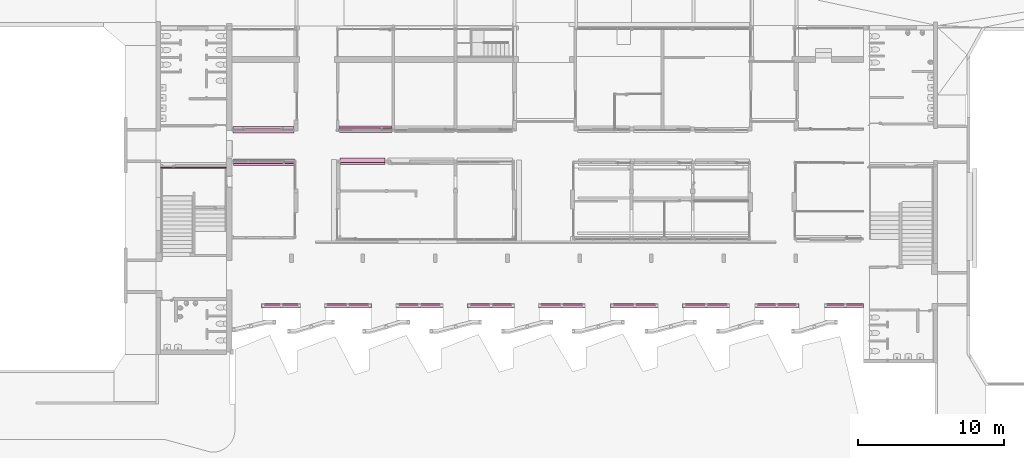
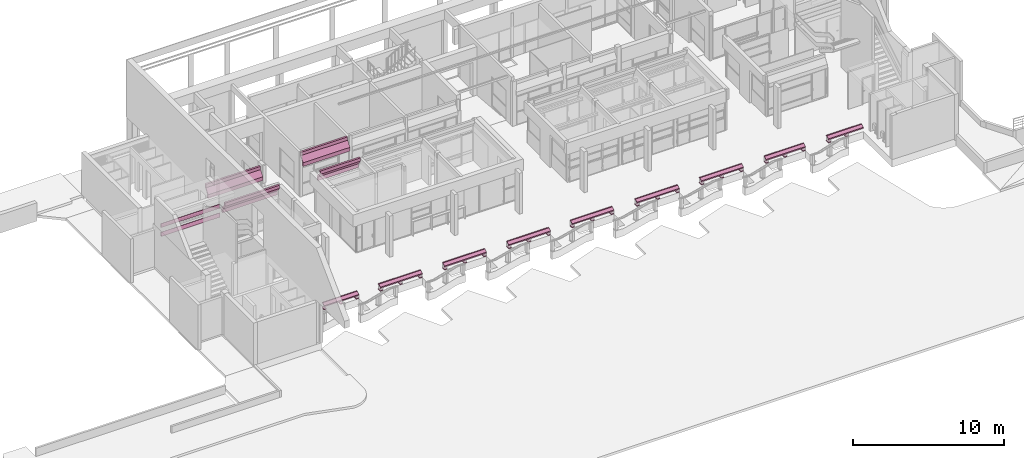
# One storey, part 113 of 117: 14 furniture elements.
"""IFC4 building model written with IfcOpenShell, lengths in metres."""

from ifc_helpers import new_model, entity, si_unit, converted_unit, derived_unit, direction, frame, origin, place, context, subcontext, project, spatial, indexed_curve, outline, extrude, source, transform, mapped, material, type_object, type_shapes, element, save


model = new_model("IFC4")

# Units and contexts
model_context = context("Model", 3, precision=1e-05, world=origin(), true_north=direction((6.123031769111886e-17, 1.0)))
body_context = subcontext(model_context, "Body", "Model", "MODEL_VIEW")
ifc_project = project(units=[si_unit("LENGTHUNIT", "METRE"), si_unit("AREAUNIT", "SQUARE_METRE"), si_unit("VOLUMEUNIT", "CUBIC_METRE"), converted_unit("PLANEANGLEUNIT", "DEGREE", entity("IfcRatioMeasure", 0.017453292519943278), si_unit("PLANEANGLEUNIT", "RADIAN"), dimensions=[0, 0, 0, 0, 0, 0, 0]), si_unit("MASSUNIT", "GRAM", prefix="KILO"), derived_unit("MASSDENSITYUNIT", [(si_unit("MASSUNIT", "GRAM", prefix="KILO"), 1), (si_unit("LENGTHUNIT", "METRE"), -3)]), derived_unit("MOMENTOFINERTIAUNIT", [(si_unit("LENGTHUNIT", "METRE"), 4)]), si_unit("TIMEUNIT", "SECOND"), si_unit("FREQUENCYUNIT", "HERTZ"), si_unit("THERMODYNAMICTEMPERATUREUNIT", "DEGREE_CELSIUS"), derived_unit("THERMALTRANSMITTANCEUNIT", [(si_unit("MASSUNIT", "GRAM", prefix="KILO"), 1), (si_unit("THERMODYNAMICTEMPERATUREUNIT", "KELVIN"), -1), (si_unit("TIMEUNIT", "SECOND"), -3)]), derived_unit("VOLUMETRICFLOWRATEUNIT", [(si_unit("LENGTHUNIT", "METRE"), 3), (si_unit("TIMEUNIT", "SECOND"), -1)]), derived_unit("MASSFLOWRATEUNIT", [(si_unit("MASSUNIT", "GRAM", prefix="KILO"), 1), (si_unit("TIMEUNIT", "SECOND"), -1)]), derived_unit("ROTATIONALFREQUENCYUNIT", [(si_unit("TIMEUNIT", "SECOND"), -1)]), si_unit("ELECTRICCURRENTUNIT", "AMPERE"), si_unit("ELECTRICVOLTAGEUNIT", "VOLT"), si_unit("POWERUNIT", "WATT"), si_unit("FORCEUNIT", "NEWTON", prefix="KILO"), si_unit("ILLUMINANCEUNIT", "LUX"), si_unit("LUMINOUSFLUXUNIT", "LUMEN"), si_unit("LUMINOUSINTENSITYUNIT", "CANDELA"), derived_unit("USERDEFINED", [(si_unit("MASSUNIT", "GRAM", prefix="KILO"), -1), (si_unit("LENGTHUNIT", "METRE"), -2), (si_unit("TIMEUNIT", "SECOND"), 3), (si_unit("LUMINOUSFLUXUNIT", "LUMEN"), 1)]), derived_unit("SOUNDPOWERUNIT", [(si_unit("MASSUNIT", "GRAM", prefix="KILO"), 1), (si_unit("LENGTHUNIT", "METRE"), 2), (si_unit("TIMEUNIT", "SECOND"), -3)]), derived_unit("SOUNDPRESSUREUNIT", [(si_unit("MASSUNIT", "GRAM", prefix="KILO"), 1), (si_unit("LENGTHUNIT", "METRE"), -1), (si_unit("TIMEUNIT", "SECOND"), -2)]), derived_unit("LINEARVELOCITYUNIT", [(si_unit("LENGTHUNIT", "METRE"), 1), (si_unit("TIMEUNIT", "SECOND"), -1)]), si_unit("PRESSUREUNIT", "PASCAL"), derived_unit("USERDEFINED", [(si_unit("LENGTHUNIT", "METRE"), -2), (si_unit("MASSUNIT", "GRAM", prefix="KILO"), 1), (si_unit("TIMEUNIT", "SECOND"), -2)]), derived_unit("LINEARFORCEUNIT", [(si_unit("MASSUNIT", "GRAM", prefix="KILO"), 1), (si_unit("LENGTHUNIT", "METRE"), 1), (si_unit("TIMEUNIT", "SECOND"), -2), (si_unit("LENGTHUNIT", "METRE"), -1)]), derived_unit("PLANARFORCEUNIT", [(si_unit("MASSUNIT", "GRAM", prefix="KILO"), 1), (si_unit("LENGTHUNIT", "METRE"), 1), (si_unit("TIMEUNIT", "SECOND"), -2), (si_unit("LENGTHUNIT", "METRE"), -2)])], contexts=[model_context])

# Site, building, storey
site_placement = place(None, origin())
site = spatial("IfcSite", under=ifc_project, at=site_placement, Name="Superficie", CompositionType="ELEMENT")
building_placement = place(site_placement, origin())
building = spatial("IfcBuilding", under=site, at=building_placement, CompositionType="ELEMENT")
storey_placement = place(building_placement, origin())
storey = spatial("IfcBuildingStorey", under=building, at=storey_placement, Name="Nivel 0", CompositionType="ELEMENT", Elevation=0.0)

# Furniture
ifc_material = material(Name="Madera - Listel", Category="Madera")
furniture_type_1 = type_object("IfcFurnitureType", Name="Mobiliario 8:Mobiliario 4", AssemblyPlace="NOTDEFINED", PredefinedType="NOTDEFINED", material=ifc_material)
shared_shape_1 = source(origin(), body_context, "Body", "SweptSolid", [
    extrude(outline(indexed_curve([(-0.49000000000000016, -0.22499999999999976), (-0.1900000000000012, -0.22499999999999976), (0.20999999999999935, 0.07500000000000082), (0.4699999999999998, 0.07500000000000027), (0.4699999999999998, 0.22500000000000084), (0.21000000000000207, 0.22500000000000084), (-0.1900000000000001, -0.07499999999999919), (-0.49000000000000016, -0.07499999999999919), (-0.49000000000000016, -0.22499999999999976)], self_intersect=False)), frame((-15.242403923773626, 3.5854370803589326, 2.9299999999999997), z_axis=(1.0, 0.0, 0.0), x_axis=(0.0, 0.0, 1.0)), (0.0, 0.0, 1.0), 3.0800000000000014),
])
type_shapes(furniture_type_1, [shared_shape_1])
furniture_1_placement = place(storey_placement, origin())
element("IfcFurniture", 1, at=furniture_1_placement, inside=storey, type_object=furniture_type_1, material=ifc_material, Name="Mobiliario 8:Mobiliario 4", ObjectType="Mobiliario 8:Mobiliario 4", PredefinedType="NOTDEFINED", context=body_context, shape_type="MappedRepresentation", body=[
    mapped(shared_shape_1, transform((0.0, 0.0, 0.0), scale=1.0)),
])
furniture_type_2 = type_object("IfcFurnitureType", Name="Mobiliario 9:Mobiliario 4", AssemblyPlace="NOTDEFINED", PredefinedType="NOTDEFINED", material=ifc_material)
shared_shape_2 = source(origin(), body_context, "Body", "SweptSolid", [
    extrude(outline(indexed_curve([(-0.49000000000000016, -0.22499999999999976), (-0.1900000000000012, -0.22500000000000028), (0.20999999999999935, 0.07500000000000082), (0.4699999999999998, 0.07500000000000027), (0.4699999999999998, 0.22500000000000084), (0.21000000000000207, 0.22500000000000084), (-0.1900000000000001, -0.07499999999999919), (-0.49000000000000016, -0.07499999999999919), (-0.49000000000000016, -0.22499999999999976)], self_intersect=False)), frame((-22.563200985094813, 3.5308292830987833, 2.9299999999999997), z_axis=(1.0, 0.0, 0.0), x_axis=(0.0, 0.0, 1.0)), (0.0, 0.0, 1.0), 4.179999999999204),
])
type_shapes(furniture_type_2, [shared_shape_2])
furniture_2_placement = place(storey_placement, origin())
element("IfcFurniture", 2, at=furniture_2_placement, inside=storey, type_object=furniture_type_2, material=ifc_material, Name="Mobiliario 9:Mobiliario 4", ObjectType="Mobiliario 9:Mobiliario 4", PredefinedType="NOTDEFINED", context=body_context, shape_type="MappedRepresentation", body=[
    mapped(shared_shape_2, transform((0.0, 0.0, 0.0), scale=1.0)),
])
furniture_type_3 = type_object("IfcFurnitureType", Name="Mobiliario 10:Mobiliario 4", AssemblyPlace="NOTDEFINED", PredefinedType="NOTDEFINED", material=ifc_material)
shared_shape_3 = source(origin(), body_context, "Body", "SweptSolid", [
    extrude(outline(indexed_curve([(-0.22499999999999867, -0.49000000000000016), (-0.07499999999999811, -0.49000000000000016), (-0.07499999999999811, -0.1900000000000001), (0.22500000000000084, 0.210000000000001), (0.22500000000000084, 0.4699999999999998), (0.07500000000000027, 0.4699999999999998), (0.07500000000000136, 0.20999999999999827), (-0.22499999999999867, -0.1900000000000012), (-0.22499999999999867, -0.49000000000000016)], self_intersect=False)), frame((-22.573780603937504, 5.740829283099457, 2.9299999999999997), z_axis=(1.0, 0.0, 0.0), x_axis=(0.0, 1.0, 0.0)), (0.0, 0.0, 1.0), 4.180579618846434),
])
type_shapes(furniture_type_3, [shared_shape_3])
furniture_3_placement = place(storey_placement, origin())
element("IfcFurniture", 3, at=furniture_3_placement, inside=storey, type_object=furniture_type_3, material=ifc_material, Name="Mobiliario 10:Mobiliario 4", ObjectType="Mobiliario 10:Mobiliario 4", PredefinedType="NOTDEFINED", context=body_context, shape_type="MappedRepresentation", body=[
    mapped(shared_shape_3, transform((0.0, 0.0, 0.0), scale=1.0)),
])
furniture_type_4 = type_object("IfcFurnitureType", Name="Mobiliario 11:Mobiliario 4", AssemblyPlace="NOTDEFINED", PredefinedType="NOTDEFINED", material=ifc_material)
shared_shape_4 = source(origin(), body_context, "Body", "SweptSolid", [
    extrude(outline(indexed_curve([(-0.22499999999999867, -0.49000000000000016), (-0.07499999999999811, -0.49000000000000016), (-0.07499999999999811, -0.1900000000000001), (0.22500000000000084, 0.210000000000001), (0.22500000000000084, 0.4699999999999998), (0.07500000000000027, 0.4699999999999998), (0.07500000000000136, 0.20999999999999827), (-0.22499999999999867, -0.1900000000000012), (-0.22499999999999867, -0.49000000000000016)], self_intersect=False)), frame((-15.28320098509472, 5.800467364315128, 2.9299999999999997), z_axis=(1.0, 0.0, 0.0), x_axis=(0.0, 1.0, 0.0)), (0.0, 0.0, 1.0), 3.5799999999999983),
])
type_shapes(furniture_type_4, [shared_shape_4])
furniture_4_placement = place(storey_placement, origin())
element("IfcFurniture", 4, at=furniture_4_placement, inside=storey, type_object=furniture_type_4, material=ifc_material, Name="Mobiliario 11:Mobiliario 4", ObjectType="Mobiliario 11:Mobiliario 4", PredefinedType="NOTDEFINED", context=body_context, shape_type="MappedRepresentation", body=[
    mapped(shared_shape_4, transform((0.0, 0.0, 0.0), scale=1.0)),
])
furniture_type_5 = type_object("IfcFurnitureType", Name="baranda andenes:baranda andenes", AssemblyPlace="NOTDEFINED", PredefinedType="NOTDEFINED", material=ifc_material)
shared_shape_5 = source(origin(), body_context, "Body", "SweptSolid", [
    extrude(outline(indexed_curve([(-0.14999999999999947, -0.10000000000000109), (0.15000000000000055, -0.10000000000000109), (0.15000000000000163, 0.09999999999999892), (-0.14999999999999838, 0.09999999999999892), (-0.14999999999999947, -0.10000000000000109)], self_intersect=False)), frame((-16.222973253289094, -6.294170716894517, 0.0), z_axis=(0.0, 0.0, 1.0), x_axis=(0.0, -1.0, 0.0)), (0.0, 0.0, 1.0), 0.07),
    extrude(outline(indexed_curve([(-0.14999243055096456, -0.09999999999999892), (0.14999243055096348, -0.09999999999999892), (0.14999243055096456, 0.10000000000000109), (-0.14999243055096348, 0.10000000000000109), (-0.14999243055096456, -0.09999999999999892)], self_intersect=False)), frame((-13.213200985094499, -6.294163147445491, 0.0), z_axis=(0.0, 0.0, 1.0), x_axis=(0.0, 1.0, 0.0)), (0.0, 0.0, 1.0), 0.07),
    extrude(outline(indexed_curve([(-0.12000000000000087, -0.09999999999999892), (0.17999999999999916, -0.09999999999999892), (0.18000000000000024, 0.10000000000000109), (-0.11999999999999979, 0.10000000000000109), (-0.11999999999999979, 0.0), (-0.12000000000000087, -0.09999999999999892)], self_intersect=False)), frame((-14.7180871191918, -6.264170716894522, 0.0), z_axis=(0.0, 0.0, 1.0), x_axis=(0.0, -1.0, 0.0)), (0.0, 0.0, 1.0), 0.07),
    extrude(outline(indexed_curve([(-0.11383723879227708, -0.08624999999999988), (-0.11383723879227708, -0.14625000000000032), (-0.023837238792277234, -0.14625000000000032), (0.10616276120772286, 0.06374999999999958), (0.10616276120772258, 0.1537499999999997), (0.04616276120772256, 0.1537499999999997), (0.04616276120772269, 0.09375000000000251), (-0.053139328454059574, -0.08624999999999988), (-0.11383723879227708, -0.08624999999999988)], self_intersect=False)), frame((-16.322973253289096, -6.2979207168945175, 0.3638372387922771), z_axis=(-1.0, 0.0, 0.0), x_axis=(0.0, 0.0, 1.0)), (0.0, 0.0, -1.0), 3.2097722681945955),
])
type_shapes(furniture_type_5, [shared_shape_5])
furniture_5_placement = place(storey_placement, origin())
element("IfcFurniture", 5, at=furniture_5_placement, inside=storey, type_object=furniture_type_5, material=ifc_material, Name="baranda andenes:baranda andenes", ObjectType="baranda andenes:baranda andenes", PredefinedType="NOTDEFINED", context=body_context, shape_type="MappedRepresentation", body=[
    mapped(shared_shape_5, transform((0.0, 0.0, 0.0), scale=1.0)),
])
furniture_type_6 = type_object("IfcFurnitureType", Name="baranda andenes1:baranda andenes", AssemblyPlace="NOTDEFINED", PredefinedType="NOTDEFINED", material=ifc_material)
shared_shape_6 = source(origin(), body_context, "Body", "SweptSolid", [
    extrude(outline(indexed_curve([(-0.15000000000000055, -0.10000000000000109), (0.14999999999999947, -0.10000000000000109), (0.15000000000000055, 0.09999999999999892), (-0.14999999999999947, 0.09999999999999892), (-0.15000000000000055, -0.10000000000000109)], self_intersect=False)), frame((-11.342973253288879, -6.294170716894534, 0.0), z_axis=(0.0, 0.0, 1.0), x_axis=(0.0, -1.0, 0.0)), (0.0, 0.0, 1.0), 0.07),
    extrude(outline(indexed_curve([(-0.14999243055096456, -0.09999999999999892), (0.14999243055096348, -0.09999999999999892), (0.14999243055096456, 0.10000000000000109), (-0.14999243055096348, 0.10000000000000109), (-0.14999243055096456, -0.09999999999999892)], self_intersect=False)), frame((-8.333200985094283, -6.294163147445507, 0.0), z_axis=(0.0, 0.0, 1.0), x_axis=(0.0, 1.0, 0.0)), (0.0, 0.0, 1.0), 0.07),
    extrude(outline(indexed_curve([(-0.12000000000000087, -0.10000000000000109), (0.17999999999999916, -0.10000000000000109), (0.18000000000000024, 0.09999999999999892), (-0.11999999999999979, 0.09999999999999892), (-0.11999999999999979, -2.1657342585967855e-15), (-0.12000000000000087, -0.10000000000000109)], self_intersect=False)), frame((-9.83808711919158, -6.264170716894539, 0.0), z_axis=(0.0, 0.0, 1.0), x_axis=(0.0, -1.0, 0.0)), (0.0, 0.0, 1.0), 0.07),
    extrude(outline(indexed_curve([(-0.11383723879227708, -0.08624999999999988), (-0.11383723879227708, -0.14625000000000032), (-0.023837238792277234, -0.14625000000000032), (0.10616276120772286, 0.06374999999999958), (0.10616276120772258, 0.1537499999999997), (0.04616276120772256, 0.1537499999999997), (0.04616276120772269, 0.09375000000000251), (-0.053139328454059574, -0.08624999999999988), (-0.11383723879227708, -0.08624999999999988)], self_intersect=False)), frame((-11.44297325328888, -6.2979207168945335, 0.3638372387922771), z_axis=(-1.0, 0.0, 0.0), x_axis=(0.0, 0.0, 1.0)), (0.0, 0.0, -1.0), 3.2097722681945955),
])
type_shapes(furniture_type_6, [shared_shape_6])
furniture_6_placement = place(storey_placement, frame((0.02499999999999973, 0.0, 0.0)))
element("IfcFurniture", 6, at=furniture_6_placement, inside=storey, type_object=furniture_type_6, material=ifc_material, Name="baranda andenes1:baranda andenes", ObjectType="baranda andenes1:baranda andenes", PredefinedType="NOTDEFINED", context=body_context, shape_type="MappedRepresentation", body=[
    mapped(shared_shape_6, transform((0.0, 0.0, 0.0), scale=1.0)),
])
furniture_type_7 = type_object("IfcFurnitureType", Name="baranda andenes2:baranda andenes", AssemblyPlace="NOTDEFINED", PredefinedType="NOTDEFINED", material=ifc_material)
shared_shape_7 = source(origin(), body_context, "Body", "SweptSolid", [
    extrude(outline(indexed_curve([(-0.15000000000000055, -0.1), (0.14999999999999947, -0.1), (0.15000000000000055, 0.1), (-0.14999999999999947, 0.1), (-0.15000000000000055, -0.1)], self_intersect=False)), frame((-6.442973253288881, -6.29417071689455, 0.0), z_axis=(0.0, 0.0, 1.0), x_axis=(0.0, -1.0, 0.0)), (0.0, 0.0, 1.0), 0.07),
    extrude(outline(indexed_curve([(-0.14999243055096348, -0.1), (0.14999243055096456, -0.1), (0.14999243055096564, 0.1), (-0.1499924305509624, 0.1), (-0.14999243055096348, -0.1)], self_intersect=False)), frame((-3.4332009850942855, -6.294163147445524, 0.0), z_axis=(0.0, 0.0, 1.0), x_axis=(0.0, 1.0, 0.0)), (0.0, 0.0, 1.0), 0.07),
    extrude(outline(indexed_curve([(-0.12000000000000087, -0.1), (0.17999999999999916, -0.1), (0.18000000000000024, 0.1), (-0.11999999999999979, 0.1), (-0.11999999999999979, -1.0828671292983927e-15), (-0.12000000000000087, -0.1)], self_intersect=False)), frame((-4.938087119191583, -6.264170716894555, 0.0), z_axis=(0.0, 0.0, 1.0), x_axis=(0.0, -1.0, 0.0)), (0.0, 0.0, 1.0), 0.07),
    extrude(outline(indexed_curve([(-0.11383723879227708, -0.0862499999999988), (-0.11383723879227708, -0.14624999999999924), (-0.023837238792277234, -0.14624999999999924), (0.10616276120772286, 0.06375000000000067), (0.10616276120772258, 0.15375000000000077), (0.04616276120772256, 0.15375000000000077), (0.04616276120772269, 0.0937500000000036), (-0.053139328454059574, -0.0862499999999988), (-0.11383723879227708, -0.0862499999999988)], self_intersect=False)), frame((-6.54297325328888, -6.29792071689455, 0.3638372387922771), z_axis=(-1.0, 0.0, 0.0), x_axis=(0.0, 0.0, 1.0)), (0.0, 0.0, -1.0), 3.209772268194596),
])
type_shapes(furniture_type_7, [shared_shape_7])
furniture_7_placement = place(storey_placement, frame((0.02499999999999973, 0.0, 0.0)))
element("IfcFurniture", 7, at=furniture_7_placement, inside=storey, type_object=furniture_type_7, material=ifc_material, Name="baranda andenes2:baranda andenes", ObjectType="baranda andenes2:baranda andenes", PredefinedType="NOTDEFINED", context=body_context, shape_type="MappedRepresentation", body=[
    mapped(shared_shape_7, transform((0.0, 0.0, 0.0), scale=1.0)),
])
furniture_type_8 = type_object("IfcFurnitureType", Name="baranda andenes3:baranda andenes", AssemblyPlace="NOTDEFINED", PredefinedType="NOTDEFINED", material=ifc_material)
shared_shape_8 = source(origin(), body_context, "Body", "SweptSolid", [
    extrude(outline(indexed_curve([(-0.14999999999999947, -0.1), (0.15000000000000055, -0.1), (0.15000000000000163, 0.1), (-0.14999999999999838, 0.1), (-0.14999999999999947, -0.1)], self_intersect=False)), frame((-1.6029732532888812, -6.294170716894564, 0.0), z_axis=(0.0, 0.0, 1.0), x_axis=(0.0, -1.0, 0.0)), (0.0, 0.0, 1.0), 0.07),
    extrude(outline(indexed_curve([(-0.14999243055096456, -0.1), (0.14999243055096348, -0.1), (0.14999243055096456, 0.1), (-0.14999243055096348, 0.1), (-0.14999243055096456, -0.1)], self_intersect=False)), frame((1.4067990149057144, -6.294163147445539, 0.0), z_axis=(0.0, 0.0, 1.0), x_axis=(0.0, 1.0, 0.0)), (0.0, 0.0, 1.0), 0.07),
    extrude(outline(indexed_curve([(-0.11999999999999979, -0.09999999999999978), (0.18000000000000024, -0.09999999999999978), (0.18000000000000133, 0.10000000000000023), (-0.1199999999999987, 0.10000000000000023), (-0.1199999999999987, -8.629097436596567e-16), (-0.11999999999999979, -0.09999999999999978)], self_intersect=False)), frame((-0.09808711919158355, -6.2641707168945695, 0.0), z_axis=(0.0, 0.0, 1.0), x_axis=(0.0, -1.0, 0.0)), (0.0, 0.0, 1.0), 0.07),
    extrude(outline(indexed_curve([(-0.11383723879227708, -0.08625000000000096), (-0.11383723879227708, -0.1462500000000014), (-0.023837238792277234, -0.1462500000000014), (0.10616276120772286, 0.0637499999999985), (0.10616276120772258, 0.1537499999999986), (0.04616276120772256, 0.1537499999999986), (0.04616276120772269, 0.09375000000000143), (-0.053139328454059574, -0.08625000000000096), (-0.11383723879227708, -0.08625000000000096)], self_intersect=False)), frame((-1.7029732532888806, -6.297920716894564, 0.3638372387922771), z_axis=(-1.0, 0.0, 0.0), x_axis=(0.0, 0.0, 1.0)), (0.0, 0.0, -1.0), 3.2097722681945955),
])
type_shapes(furniture_type_8, [shared_shape_8])
furniture_8_placement = place(storey_placement, frame((0.02499999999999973, 0.0, 0.0)))
element("IfcFurniture", 8, at=furniture_8_placement, inside=storey, type_object=furniture_type_8, material=ifc_material, Name="baranda andenes3:baranda andenes", ObjectType="baranda andenes3:baranda andenes", PredefinedType="NOTDEFINED", context=body_context, shape_type="MappedRepresentation", body=[
    mapped(shared_shape_8, transform((0.0, 0.0, 0.0), scale=1.0)),
])
furniture_type_9 = type_object("IfcFurnitureType", Name="baranda andenes4:baranda andenes", AssemblyPlace="NOTDEFINED", PredefinedType="NOTDEFINED", material=ifc_material)
shared_shape_9 = source(origin(), body_context, "Body", "SweptSolid", [
    extrude(outline(indexed_curve([(-0.15000000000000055, -0.1), (0.14999999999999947, -0.1), (0.15000000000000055, 0.1), (-0.14999999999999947, 0.1), (-0.15000000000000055, -0.1)], self_intersect=False)), frame((3.3765712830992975, -6.294170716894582, 0.0), z_axis=(0.0, 0.0, 1.0), x_axis=(0.0, -1.0, 0.0)), (0.0, 0.0, 1.0), 0.07),
    extrude(outline(indexed_curve([(-0.14999243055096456, -0.1), (0.14999243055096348, -0.1), (0.14999243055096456, 0.1), (-0.14999243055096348, 0.1), (-0.14999243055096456, -0.1)], self_intersect=False)), frame((6.431343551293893, -6.294163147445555, 0.0), z_axis=(0.0, 0.0, 1.0), x_axis=(0.0, 1.0, 0.0)), (0.0, 0.0, 1.0), 0.07),
    extrude(outline(indexed_curve([(-0.12000000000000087, -0.1), (0.17999999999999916, -0.1), (0.18000000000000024, 0.1), (-0.11999999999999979, 0.1), (-0.11999999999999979, -1.0828671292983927e-15), (-0.12000000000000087, -0.1)], self_intersect=False)), frame((4.926457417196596, -6.264170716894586, 0.0), z_axis=(0.0, 0.0, 1.0), x_axis=(0.0, -1.0, 0.0)), (0.0, 0.0, 1.0), 0.07),
    extrude(outline(indexed_curve([(-0.11383723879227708, -0.08624999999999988), (-0.11383723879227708, -0.14625000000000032), (-0.023837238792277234, -0.14625000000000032), (0.10616276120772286, 0.06374999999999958), (0.10616276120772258, 0.1537499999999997), (0.04616276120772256, 0.1537499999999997), (0.04616276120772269, 0.09375000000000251), (-0.053139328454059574, -0.08624999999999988), (-0.11383723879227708, -0.08624999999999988)], self_intersect=False)), frame((3.2767990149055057, -6.297920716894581, 0.3638372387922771), z_axis=(-1.0, 0.0, 0.0), x_axis=(0.0, 0.0, 1.0)), (0.0, 0.0, -1.0), 3.2545445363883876),
])
type_shapes(furniture_type_9, [shared_shape_9])
furniture_9_placement = place(storey_placement, origin())
element("IfcFurniture", 9, at=furniture_9_placement, inside=storey, type_object=furniture_type_9, material=ifc_material, Name="baranda andenes4:baranda andenes", ObjectType="baranda andenes4:baranda andenes", PredefinedType="NOTDEFINED", context=body_context, shape_type="MappedRepresentation", body=[
    mapped(shared_shape_9, transform((0.0, 0.0, 0.0), scale=1.0)),
])
furniture_type_10 = type_object("IfcFurnitureType", Name="baranda andenes5:baranda andenes", AssemblyPlace="NOTDEFINED", PredefinedType="NOTDEFINED", material=ifc_material)
shared_shape_10 = source(origin(), body_context, "Body", "SweptSolid", [
    extrude(outline(indexed_curve([(-0.15000000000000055, -0.1), (0.14999999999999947, -0.1), (0.15000000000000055, 0.1), (-0.14999999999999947, 0.1), (-0.15000000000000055, -0.1)], self_intersect=False)), frame((8.287026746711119, -6.294170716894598, 0.0), z_axis=(0.0, 0.0, 1.0), x_axis=(0.0, -1.0, 0.0)), (0.0, 0.0, 1.0), 0.07),
    extrude(outline(indexed_curve([(-0.14999243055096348, -0.09999999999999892), (0.14999243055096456, -0.09999999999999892), (0.14999243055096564, 0.10000000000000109), (-0.1499924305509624, 0.10000000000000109), (-0.14999243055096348, -0.09999999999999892)], self_intersect=False)), frame((11.296799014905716, -6.2941631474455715, 0.0), z_axis=(0.0, 0.0, 1.0), x_axis=(0.0, 1.0, 0.0)), (0.0, 0.0, 1.0), 0.07),
    extrude(outline(indexed_curve([(-0.12000000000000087, -0.10000000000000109), (0.17999999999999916, -0.10000000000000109), (0.18000000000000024, 0.09999999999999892), (-0.11999999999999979, 0.09999999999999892), (-0.11999999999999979, -2.1657342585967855e-15), (-0.12000000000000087, -0.10000000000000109)], self_intersect=False)), frame((9.791912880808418, -6.264170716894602, 0.0), z_axis=(0.0, 0.0, 1.0), x_axis=(0.0, -1.0, 0.0)), (0.0, 0.0, 1.0), 0.07),
    extrude(outline(indexed_curve([(-0.11383723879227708, -0.08624999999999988), (-0.11383723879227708, -0.14625000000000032), (-0.023837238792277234, -0.14625000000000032), (0.10616276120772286, 0.06374999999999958), (0.10616276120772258, 0.1537499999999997), (0.04616276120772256, 0.1537499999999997), (0.04616276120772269, 0.09375000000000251), (-0.053139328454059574, -0.08624999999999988), (-0.11383723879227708, -0.08624999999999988)], self_intersect=False)), frame((8.187026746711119, -6.297920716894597, 0.3638372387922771), z_axis=(-1.0, 0.0, 0.0), x_axis=(0.0, 0.0, 1.0)), (0.0, 0.0, -1.0), 3.2097722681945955),
])
type_shapes(furniture_type_10, [shared_shape_10])
furniture_10_placement = place(storey_placement, frame((0.02499999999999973, 0.0, 0.0)))
element("IfcFurniture", 10, at=furniture_10_placement, inside=storey, type_object=furniture_type_10, material=ifc_material, Name="baranda andenes5:baranda andenes", ObjectType="baranda andenes5:baranda andenes", PredefinedType="NOTDEFINED", context=body_context, shape_type="MappedRepresentation", body=[
    mapped(shared_shape_10, transform((0.0, 0.0, 0.0), scale=1.0)),
])
furniture_type_11 = type_object("IfcFurnitureType", Name="baranda andenes6:baranda andenes", AssemblyPlace="NOTDEFINED", PredefinedType="NOTDEFINED", material=ifc_material)
shared_shape_11 = source(origin(), body_context, "Body", "SweptSolid", [
    extrude(outline(indexed_curve([(-0.15000000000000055, -0.10000000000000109), (0.14999999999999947, -0.10000000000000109), (0.15000000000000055, 0.09999999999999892), (-0.14999999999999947, 0.09999999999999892), (-0.15000000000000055, -0.10000000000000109)], self_intersect=False)), frame((13.247026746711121, -6.294170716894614, 0.0), z_axis=(0.0, 0.0, 1.0), x_axis=(0.0, -1.0, 0.0)), (0.0, 0.0, 1.0), 0.07),
    extrude(outline(indexed_curve([(-0.14999243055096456, -0.10000000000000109), (0.14999243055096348, -0.10000000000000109), (0.14999243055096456, 0.09999999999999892), (-0.14999243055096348, 0.09999999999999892), (-0.14999243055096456, -0.10000000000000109)], self_intersect=False)), frame((16.066799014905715, -6.294163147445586, 0.0), z_axis=(0.0, 0.0, 1.0), x_axis=(0.0, 1.0, 0.0)), (0.0, 0.0, 1.0), 0.07),
    extrude(outline(indexed_curve([(-0.12000000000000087, -0.10000000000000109), (0.17999999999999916, -0.10000000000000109), (0.18000000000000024, 0.09999999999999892), (-0.11999999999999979, 0.09999999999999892), (-0.11999999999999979, -2.1657342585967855e-15), (-0.12000000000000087, -0.10000000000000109)], self_intersect=False)), frame((14.65191288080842, -6.264170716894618, 0.0), z_axis=(0.0, 0.0, 1.0), x_axis=(0.0, -1.0, 0.0)), (0.0, 0.0, 1.0), 0.07),
    extrude(outline(indexed_curve([(-0.11383723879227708, -0.08625000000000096), (-0.11383723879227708, -0.1462500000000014), (-0.023837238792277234, -0.1462500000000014), (0.10616276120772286, 0.0637499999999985), (0.10616276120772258, 0.1537499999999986), (0.04616276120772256, 0.1537499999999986), (0.04616276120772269, 0.09375000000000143), (-0.053139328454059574, -0.08625000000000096), (-0.11383723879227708, -0.08625000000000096)], self_intersect=False)), frame((13.146799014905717, -6.297920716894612, 0.3638372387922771), z_axis=(-1.0, 0.0, 0.0), x_axis=(0.0, 0.0, 1.0)), (0.0, 0.0, -1.0), 3.02),
])
type_shapes(furniture_type_11, [shared_shape_11])
furniture_11_placement = place(storey_placement, origin())
element("IfcFurniture", 11, at=furniture_11_placement, inside=storey, type_object=furniture_type_11, material=ifc_material, Name="baranda andenes6:baranda andenes", ObjectType="baranda andenes6:baranda andenes", PredefinedType="NOTDEFINED", context=body_context, shape_type="MappedRepresentation", body=[
    mapped(shared_shape_11, transform((0.0, 0.0, 0.0), scale=1.0)),
])
furniture_type_12 = type_object("IfcFurnitureType", Name="baranda andenes7:baranda andenes", AssemblyPlace="NOTDEFINED", PredefinedType="NOTDEFINED", material=ifc_material)
shared_shape_12 = source(origin(), body_context, "Body", "SweptSolid", [
    extrude(outline(indexed_curve([(-0.15000000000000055, -0.10000000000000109), (0.14999999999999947, -0.10000000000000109), (0.15000000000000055, 0.09999999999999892), (-0.14999999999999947, 0.09999999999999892), (-0.15000000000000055, -0.10000000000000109)], self_intersect=False)), frame((18.017596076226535, -6.294170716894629, 0.0), z_axis=(0.0, 0.0, 1.0), x_axis=(0.0, -1.0, 0.0)), (0.0, 0.0, 1.0), 0.07),
    extrude(outline(indexed_curve([(-0.12000000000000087, -0.10000000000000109), (0.17999999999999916, -0.10000000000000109), (0.18000000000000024, 0.09999999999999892), (-0.11999999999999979, 0.09999999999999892), (-0.11999999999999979, -2.1657342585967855e-15), (-0.12000000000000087, -0.10000000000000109)], self_intersect=False)), frame((19.352596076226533, -6.2641707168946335, 0.0), z_axis=(0.0, 0.0, 1.0), x_axis=(0.0, -1.0, 0.0)), (0.0, 0.0, 1.0), 0.07),
    extrude(outline(indexed_curve([(-0.11383723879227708, -0.0862499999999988), (-0.11383723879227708, -0.14624999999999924), (-0.023837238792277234, -0.14624999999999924), (0.10616276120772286, 0.06375000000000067), (0.10616276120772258, 0.15375000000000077), (0.04616276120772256, 0.15375000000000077), (0.04616276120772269, 0.0937500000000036), (-0.053139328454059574, -0.0862499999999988), (-0.11383723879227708, -0.0862499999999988)], self_intersect=False)), frame((17.917596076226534, -6.2979207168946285, 0.3638372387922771), z_axis=(-1.0, 0.0, 0.0), x_axis=(0.0, 0.0, 1.0)), (0.0, 0.0, -1.0), 2.6699999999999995),
])
type_shapes(furniture_type_12, [shared_shape_12])
furniture_12_placement = place(storey_placement, origin())
element("IfcFurniture", 12, at=furniture_12_placement, inside=storey, type_object=furniture_type_12, material=ifc_material, Name="baranda andenes7:baranda andenes", ObjectType="baranda andenes7:baranda andenes", PredefinedType="NOTDEFINED", context=body_context, shape_type="MappedRepresentation", body=[
    mapped(shared_shape_12, transform((0.0, 0.0, 0.0), scale=1.0)),
])
furniture_type_13 = type_object("IfcFurnitureType", Name="baranda andenes8:baranda andenes", AssemblyPlace="NOTDEFINED", PredefinedType="NOTDEFINED", material=ifc_material)
shared_shape_13 = source(origin(), body_context, "Body", "SweptSolid", [
    extrude(outline(indexed_curve([(-0.14999999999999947, -0.09999999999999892), (0.15000000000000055, -0.09999999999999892), (0.15000000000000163, 0.10000000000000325), (-0.14999999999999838, 0.10000000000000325), (-0.14999999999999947, -0.09999999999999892)], self_intersect=False)), frame((-20.523200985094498, -6.294170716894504, 0.0), z_axis=(0.0, 0.0, 1.0), x_axis=(0.0, -1.0, 0.0)), (0.0, 0.0, 1.0), 0.07),
    extrude(outline(indexed_curve([(-0.12000000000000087, -0.09999999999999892), (0.17999999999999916, -0.09999999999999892), (0.18000000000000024, 0.10000000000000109), (-0.11999999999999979, 0.10000000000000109), (-0.11999999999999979, 0.0), (-0.12000000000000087, -0.09999999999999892)], self_intersect=False)), frame((-18.0532009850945, -6.264170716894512, 0.0), z_axis=(0.0, 0.0, 1.0), x_axis=(0.0, -1.0, 0.0)), (0.0, 0.0, 1.0), 0.07),
    extrude(outline(indexed_curve([(-0.12000000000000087, -0.09999999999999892), (0.17999999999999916, -0.09999999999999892), (0.18000000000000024, 0.10000000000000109), (-0.11999999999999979, 0.10000000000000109), (-0.11999999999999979, 0.0), (-0.12000000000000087, -0.09999999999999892)], self_intersect=False)), frame((-19.2782009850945, -6.264170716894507, 0.0), z_axis=(0.0, 0.0, 1.0), x_axis=(0.0, -1.0, 0.0)), (0.0, 0.0, 1.0), 0.07),
    extrude(outline(indexed_curve([(-0.11383723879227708, -0.08624999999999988), (-0.11383723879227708, -0.14625000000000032), (-0.023837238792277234, -0.14625000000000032), (0.10616276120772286, 0.06374999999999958), (0.10616276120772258, 0.1537499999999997), (0.04616276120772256, 0.1537499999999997), (0.04616276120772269, 0.09375000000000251), (-0.053139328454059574, -0.08624999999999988), (-0.11383723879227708, -0.08624999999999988)], self_intersect=False)), frame((-20.623200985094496, -6.297920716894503, 0.3638372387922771), z_axis=(-1.0, 0.0, 0.0), x_axis=(0.0, 0.0, 1.0)), (0.0, 0.0, -1.0), 2.6699999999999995),
])
type_shapes(furniture_type_13, [shared_shape_13])
furniture_13_placement = place(storey_placement, origin())
element("IfcFurniture", 13, at=furniture_13_placement, inside=storey, type_object=furniture_type_13, material=ifc_material, Name="baranda andenes8:baranda andenes", ObjectType="baranda andenes8:baranda andenes", PredefinedType="NOTDEFINED", context=body_context, shape_type="MappedRepresentation", body=[
    mapped(shared_shape_13, transform((0.0, 0.0, 0.0), scale=1.0)),
])
furniture_type_14 = type_object("IfcFurnitureType", Name="Pasamanos escalera1:Pasamanos escalera", AssemblyPlace="NOTDEFINED", PredefinedType="NOTDEFINED", material=ifc_material)
shared_shape_14 = source(origin(), body_context, "Body", "SweptSolid", [
    extrude(outline(indexed_curve([(-0.04600000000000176, -0.1629916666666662), (-0.015999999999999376, -0.1629916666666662), (0.05399999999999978, 0.05196666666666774), (0.053999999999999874, 0.13700833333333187), (-0.04599999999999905, 0.13700833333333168), (-0.04600000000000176, -0.1629916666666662)], self_intersect=False)), frame((-27.543200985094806, 3.1659706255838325, 2.704113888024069), z_axis=(1.0, 0.0, 0.0), x_axis=(0.0, -1.0, 0.0)), (0.0, 0.0, 1.0), 4.499999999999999),
    extrude(outline(indexed_curve([(-0.13387367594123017, -0.051579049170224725), (-0.029131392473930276, -0.051579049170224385), (0.16103936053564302, 0.010349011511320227), (0.14361091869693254, 0.0928505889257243), (-0.14164521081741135, -4.1502096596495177e-05), (-0.13387367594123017, -0.051579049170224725)], self_intersect=False)), frame((-27.54320098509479, 3.1681510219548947, 3.4324088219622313), z_axis=(1.0, 0.0, 0.0), x_axis=(0.0, -0.3096403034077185, -0.9508537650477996)), (0.0, 0.0, 1.0), 4.499999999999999),
])
type_shapes(furniture_type_14, [shared_shape_14])
furniture_14_placement = place(storey_placement, origin())
element("IfcFurniture", 14, at=furniture_14_placement, inside=storey, type_object=furniture_type_14, material=ifc_material, Name="Pasamanos escalera1:Pasamanos escalera", ObjectType="Pasamanos escalera1:Pasamanos escalera", PredefinedType="NOTDEFINED", context=body_context, shape_type="MappedRepresentation", body=[
    mapped(shared_shape_14, transform((0.0, 0.0, 0.0), scale=1.0)),
])

save(model, "model.ifc")
